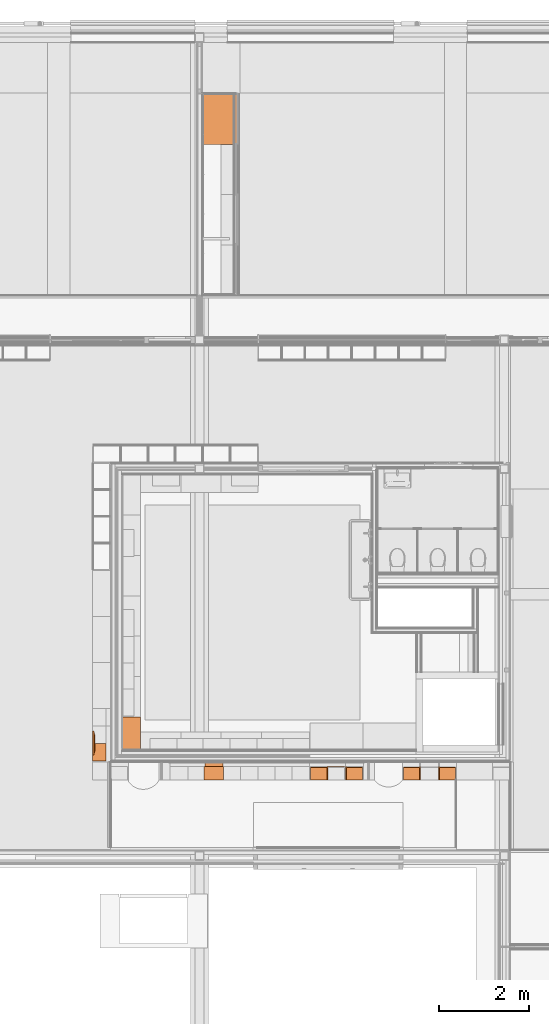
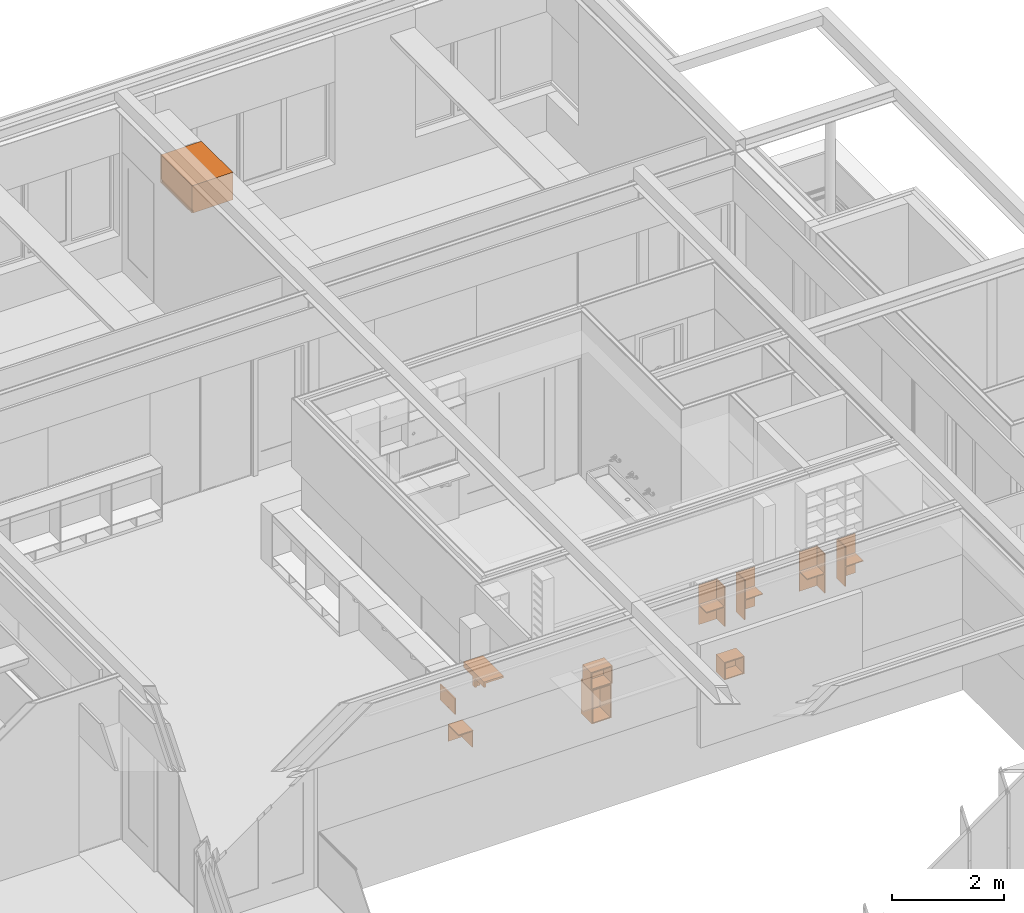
# One storey, part 136 of 137: 11 proxies.
"""IFC2X3 building model written with IfcOpenShell, lengths in millimetres."""

import ifcopenshell
import ifcopenshell.guid

model = None  # the IFC model being written
_history = None  # IfcOwnerHistory: only IFC2X3 demands one
_inside = {}  # id of a spatial element -> (the spatial element, [elements in it])
_under = {}  # id of a project, library or spatial element -> (it, [spatial elements below it])
_declared = {}  # id of a project -> (the project, [libraries it declares])
_typed = {}  # id of a type object -> (the type object, [elements of that type])
_made_of = {}  # id of a material, layer set ... -> (it, [elements and type objects made of it])


def new_model(schema):
    """Start an empty IFC model of exactly this schema.

    Asked for "IFC4X3", IfcOpenShell would pick the latest addendum, in which some entities
    have other attributes; the version numbers below select the first issue.
    IFC2X3 requires an IfcOwnerHistory on every rooted entity: one is made here for all.
    """
    global model, _history
    if schema == "IFC4X3":
        model = ifcopenshell.file(schema_version=(4, 3, 0, 0))
    else:
        model = ifcopenshell.file(schema=schema)
    _inside.clear()
    _under.clear()
    _declared.clear()
    _typed.clear()
    _made_of.clear()
    _history = None
    if model.schema == "IFC2X3":
        org = make("IfcOrganization", Name="unknown")
        user = make(
            "IfcPersonAndOrganization",
            ThePerson=make("IfcPerson", FamilyName="unknown"),
            TheOrganization=org,
        )
        app = make(
            "IfcApplication",
            ApplicationDeveloper=org,
            Version="unknown",
            ApplicationFullName="unknown",
            ApplicationIdentifier="unknown",
        )
        _history = make(
            "IfcOwnerHistory",
            OwningUser=user,
            OwningApplication=app,
            ChangeAction="ADDED",
            CreationDate=0,
        )
    return model


def make(cls, **values):
    """One entity of the class cls with the attributes given. An attribute that is None is left unset."""
    return model.create_entity(
        cls, **{name: value for name, value in values.items() if value is not None}
    )


def entity(cls, *values):
    """Any entity or typed value of the class cls, its attributes in the order of the schema. None: left unset."""
    e = model.create_entity(cls)
    for i, value in enumerate(values):
        if value is not None:
            e[i] = value
    return e


def rooted(cls, **values):
    """An entity with a GlobalId (a new one), such as an element, a storey or a relation."""
    return make(cls, GlobalId=ifcopenshell.guid.new(), OwnerHistory=_history, **values)


def si_unit(unit_type, name, prefix=None):
    """IfcSIUnit, for example si_unit("LENGTHUNIT", "METRE", prefix="MILLI")."""
    return make("IfcSIUnit", UnitType=unit_type, Prefix=prefix, Name=name)


def converted_unit(unit_type, name, factor, base, dimensions=None, offset=None):
    """IfcConversionBasedUnit, such as the inch: factor (a typed value) times the base unit."""
    return make(
        "IfcConversionBasedUnit"
        if offset is None
        else "IfcConversionBasedUnitWithOffset",
        ConversionOffset=offset,
        Dimensions=None
        if dimensions is None
        else entity("IfcDimensionalExponents", *dimensions),
        UnitType=unit_type,
        Name=name,
        ConversionFactor=make(
            "IfcMeasureWithUnit", ValueComponent=factor, UnitComponent=base
        ),
    )


def derived_unit(unit_type, elements):
    """IfcDerivedUnit: a product of units, each with its exponent."""
    return make(
        "IfcDerivedUnit",
        Elements=[
            make("IfcDerivedUnitElement", Unit=unit, Exponent=power)
            for unit, power in elements
        ],
        UnitType=unit_type,
    )


def money_unit(currency):
    """IfcMonetaryUnit."""
    return make("IfcMonetaryUnit", Currency=currency)


def assignment(units):
    """IfcUnitAssignment: the units of a project."""
    return None if units is None else make("IfcUnitAssignment", Units=units)


def point(xyz):
    """IfcCartesianPoint."""
    return None if xyz is None else make("IfcCartesianPoint", Coordinates=xyz)


def direction(xyz):
    """IfcDirection."""
    return None if xyz is None else make("IfcDirection", DirectionRatios=xyz)


def frame(location, z_axis=None, x_axis=None):
    """IfcAxis2Placement3D, a coordinate frame: its origin and axes. An axis left out is left unset."""
    return make(
        "IfcAxis2Placement3D",
        Location=point(location),
        Axis=direction(z_axis),
        RefDirection=direction(x_axis),
    )


def origin_with_axes():
    """The frame at (0, 0, 0) with the z axis (0, 0, 1) and the x axis (1, 0, 0) written out."""
    return frame((0.0, 0.0, 0.0), z_axis=(0.0, 0.0, 1.0), x_axis=(1.0, 0.0, 0.0))


def place(relative_to, where):
    """IfcLocalPlacement: puts the frame where relative to a parent placement (None: the world)."""
    return make(
        "IfcLocalPlacement", PlacementRelTo=relative_to, RelativePlacement=where
    )


def context(
    kind, dimensions, precision=None, world=None, true_north=None, identifier=None
):
    """IfcGeometricRepresentationContext, for example the 3D "Model" context."""
    return make(
        "IfcGeometricRepresentationContext",
        ContextIdentifier=identifier,
        ContextType=kind,
        CoordinateSpaceDimension=dimensions,
        Precision=precision,
        WorldCoordinateSystem=world,
        TrueNorth=true_north,
    )


def subcontext(parent, identifier, kind, view, scale=None):
    """IfcGeometricRepresentationSubContext, for example "Body" below "Model"."""
    return make(
        "IfcGeometricRepresentationSubContext",
        ContextIdentifier=identifier,
        ContextType=kind,
        ParentContext=parent,
        TargetScale=scale,
        TargetView=view,
    )


def project(units=None, contexts=None):
    """IfcProject with its units and contexts."""
    return rooted(
        "IfcProject",
        Name="project",
        RepresentationContexts=contexts,
        UnitsInContext=assignment(units),
    )


def spatial(cls, under=None, at=None, **own):
    """A site, building, storey or space (cls), placed at a placement, below another one or the project."""
    s = rooted(cls, ObjectPlacement=at, **own)
    if under is not None:
        _under.setdefault(under.id(), (under, []))[1].append(s)
    return s


def faces_of(points, faces, orient=None, outer=None):
    """IfcFace entities. A face is a list of loops; a loop is a list of indices into points, from 0.

    orient and outer hold one flag for each loop. By default every Orientation is true, the
    first loop of a face is its IfcFaceOuterBound and the others are IfcFaceBound.
    """
    made = []
    for i, loops in enumerate(faces):
        bounds = []
        for j, loop in enumerate(loops):
            is_outer = j == 0 if outer is None else outer[i][j]
            bounds.append(
                make(
                    "IfcFaceOuterBound" if is_outer else "IfcFaceBound",
                    Bound=make("IfcPolyLoop", Polygon=[points[k] for k in loop]),
                    Orientation=True if orient is None else orient[i][j],
                )
            )
        made.append(make("IfcFace", Bounds=bounds))
    return made


def faceted_brep(points, faces, orient=None, outer=None, voids=None):
    """IfcFacetedBrep: a solid bounded by flat faces; with voids (closed shells), ...WithVoids."""
    shared = [point(p) for p in points]
    hull = make("IfcClosedShell", CfsFaces=faces_of(shared, faces, orient, outer))
    if voids is None:
        return make("IfcFacetedBrep", Outer=hull)
    return make(
        "IfcFacetedBrepWithVoids",
        Outer=hull,
        Voids=[
            make(cls, CfsFaces=faces_of(shared, fs, o, b)) for cls, fs, o, b in voids
        ],
    )


def shape(context_of_items, identifier, shape_type, items):
    """IfcShapeRepresentation: the items that make up one representation, for example the "Body"."""
    return make(
        "IfcShapeRepresentation",
        ContextOfItems=context_of_items,
        RepresentationIdentifier=identifier,
        RepresentationType=shape_type,
        Items=items,
    )


def made_of(thing, what):
    """Note that an element or type object is made of a material, layer set ...; save() writes the relation."""
    if what is not None:
        _made_of.setdefault(what.id(), (what, []))[1].append(thing)
    return thing


def type_object(cls, material=None, **own):
    """A type object (cls), such as IfcWallType, which elements share."""
    return made_of(rooted(cls, **own), material)


def element(
    cls,
    number,
    at=None,
    inside=None,
    cuts=None,
    type_object=None,
    material=None,
    context=None,
    identifier="Body",
    shape_type=None,
    held_by="IfcProductDefinitionShape",
    body=None,
    shapes=None,
    **own,
):
    """One element of the class cls, such as IfcWall. Its Tag is "e" and its number.

    at: its placement. inside: the storey or other place that contains it. cuts: it is an
    opening in that element (IfcRelVoidsElement). A single representation is given by context,
    identifier, shape_type and body (its items); several are given by shapes. held_by: the class
    of the entity that holds the representations. save() writes the other relations.
    """
    e = rooted(cls, Tag="e%d" % number, ObjectPlacement=at, **own)
    if body is not None:
        shapes = [shape(context, identifier, shape_type, body)]
    if shapes is not None:
        e.Representation = make(held_by, Representations=shapes)
    if inside is not None:
        _inside.setdefault(inside.id(), (inside, []))[1].append(e)
    if cuts is not None:
        rooted(
            "IfcRelVoidsElement", RelatingBuildingElement=cuts, RelatedOpeningElement=e
        )
    if type_object is not None:
        _typed.setdefault(type_object.id(), (type_object, []))[1].append(e)
    return made_of(e, material)


def aggregate(whole, parts):
    """IfcRelAggregates: a whole, such as a stair, and the parts it consists of."""
    return rooted("IfcRelAggregates", RelatingObject=whole, RelatedObjects=parts)


def save(model, path):
    """Write the relations noted so far, then the file.

    IfcRelAggregates (storeys below a building ...), IfcRelContainedInSpatialStructure (elements
    in a storey), IfcRelDefinesByType, IfcRelAssociatesMaterial and IfcRelDeclares: one each for
    every whole, place, type object, material and project.
    """
    for whole, parts in _under.values():
        aggregate(whole, parts)
    for where, things in _inside.values():
        rooted(
            "IfcRelContainedInSpatialStructure",
            RelatedElements=things,
            RelatingStructure=where,
        )
    for kind, things in _typed.values():
        rooted("IfcRelDefinesByType", RelatedObjects=things, RelatingType=kind)
    for what, things in _made_of.values():
        rooted("IfcRelAssociatesMaterial", RelatedObjects=things, RelatingMaterial=what)
    for by, libraries in _declared.values():
        rooted("IfcRelDeclares", RelatingContext=by, RelatedDefinitions=libraries)
    model.write(path)


model = new_model("IFC2X3")

# Units and contexts
model_context = context("Model", 3, precision=0.01, world=origin_with_axes(), true_north=direction((0.0, 1.0)))
body_context = subcontext(model_context, "Body", "Model", "MODEL_VIEW")
ifc_project = project(units=[si_unit("LENGTHUNIT", "METRE", prefix="MILLI"), si_unit("AREAUNIT", "SQUARE_METRE"), si_unit("VOLUMEUNIT", "CUBIC_METRE"), converted_unit("PLANEANGLEUNIT", "DEGREE", entity("IfcPlaneAngleMeasure", 0.0174532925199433), si_unit("PLANEANGLEUNIT", "RADIAN"), dimensions=[0, 0, 0, 0, 0, 0, 0]), money_unit("EUR"), converted_unit("TIMEUNIT", "Year", entity("IfcTimeMeasure", 31556926.0), si_unit("TIMEUNIT", "SECOND"), dimensions=[0, 0, 1, 0, 0, 0, 0]), si_unit("MASSUNIT", "GRAM", prefix="KILO"), si_unit("THERMODYNAMICTEMPERATUREUNIT", "DEGREE_CELSIUS"), si_unit("LUMINOUSINTENSITYUNIT", "LUMEN"), si_unit("ENERGYUNIT", "JOULE", prefix="MEGA"), derived_unit("THERMALCONDUCTANCEUNIT", [(si_unit("POWERUNIT", "WATT"), 1), (si_unit("LENGTHUNIT", "METRE"), -1), (si_unit("THERMODYNAMICTEMPERATUREUNIT", "KELVIN"), -1)]), derived_unit("SPECIFICHEATCAPACITYUNIT", [(si_unit("ENERGYUNIT", "JOULE"), 1), (si_unit("MASSUNIT", "GRAM", prefix="KILO"), -1), (si_unit("THERMODYNAMICTEMPERATUREUNIT", "KELVIN"), -1)]), derived_unit("MASSDENSITYUNIT", [(si_unit("MASSUNIT", "GRAM", prefix="KILO"), 1), (si_unit("VOLUMEUNIT", "CUBIC_METRE"), -1)])], contexts=[model_context])

# Site, building, storey
site_placement = place(None, origin_with_axes())
site = spatial("IfcSite", under=ifc_project, at=site_placement, Name="Site", CompositionType="ELEMENT")
building_placement = place(site_placement, origin_with_axes())
building = spatial("IfcBuilding", under=site, at=building_placement, Name="Naam gebouw", CompositionType="ELEMENT")
storey_placement = place(building_placement, frame((0.0, 0.0, 3960.0), z_axis=(0.0, 0.0, 1.0), x_axis=(1.0, 0.0, 0.0)))
storey = spatial("IfcBuildingStorey", under=building, at=storey_placement, Name="1e verdieping", CompositionType="ELEMENT", Elevation=3960.0)

# Proxies
building_element_proxy_type_1 = type_object("IfcBuildingElementProxyType", Name="Onderkast recht 26", PredefinedType="NOTDEFINED")
proxy_1_placement = place(storey_placement, frame((23434.99903999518, 12804.99778166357, 1199.999999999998), z_axis=(0.0, 0.0, 1.0), x_axis=(1.0, 0.0, 0.0)))
element("IfcBuildingElementProxy", 1, at=proxy_1_placement, inside=storey, type_object=building_element_proxy_type_1, Name="_Leeg", context=body_context, shape_type="Brep", body=[
    faceted_brep([(-379.999999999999, -300.0000000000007, 441.0000000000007), (-19.99999999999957, -300.0000000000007, 441.0000000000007), (-19.99999999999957, -300.0000000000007, 459.0000000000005), (-379.999999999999, -300.0000000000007, 459.0000000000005), (-19.99999999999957, -19.99999999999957, 441.0000000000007), (-379.999999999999, -19.99999999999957, 441.0000000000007), (-19.99999999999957, -19.99999999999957, 459.0000000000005), (-379.999999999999, -19.99999999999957, 459.0000000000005)], [[[0, 1, 2, 3]], [[4, 1, 0, 5]], [[1, 4, 6, 2]], [[3, 2, 6, 7]], [[5, 0, 3, 7]], [[4, 5, 7, 6]]]),
    faceted_brep([(-19.99999999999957, -9.999999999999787, 19.99999999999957), (-379.999999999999, -9.999999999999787, 19.99999999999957), (-379.999999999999, -9.999999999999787, 880.0000000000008), (-19.99999999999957, -9.999999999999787, 880.0000000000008), (-379.999999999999, -19.99999999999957, 19.99999999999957), (-19.99999999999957, -19.99999999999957, 19.99999999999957), (-379.999999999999, -19.99999999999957, 880.0000000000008), (-19.99999999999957, -19.99999999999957, 880.0000000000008)], [[[0, 1, 2, 3]], [[4, 1, 0, 5]], [[1, 4, 6, 2]], [[3, 2, 6, 7]], [[5, 0, 3, 7]], [[4, 5, 7, 6]]]),
    faceted_brep([(-399.9999999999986, 0.0, 880.0000000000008), (-379.999999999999, 0.0, 880.0000000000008), (-379.999999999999, 0.0, 19.99999999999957), (-399.9999999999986, 0.0, 19.99999999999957), (-379.999999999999, -300.0000000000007, 880.0000000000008), (-399.9999999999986, -300.0000000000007, 880.0000000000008), (-379.999999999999, -300.0000000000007, 19.99999999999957), (-399.9999999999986, -300.0000000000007, 19.99999999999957)], [[[0, 1, 2, 3]], [[4, 1, 0, 5]], [[1, 4, 6, 2]], [[3, 2, 6, 7]], [[5, 0, 3, 7]], [[4, 5, 7, 6]]]),
])
proxy_2_placement = place(storey_placement, frame((22634.99903999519, 12804.99778166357, 1199.999999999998), z_axis=(0.0, 0.0, 1.0), x_axis=(1.0, 0.0, 0.0)))
element("IfcBuildingElementProxy", 2, at=proxy_2_placement, inside=storey, type_object=building_element_proxy_type_1, Name="_Leeg", context=body_context, shape_type="Brep", body=[
    faceted_brep([(-379.999999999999, -300.0000000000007, 441.0000000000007), (-19.99999999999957, -300.0000000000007, 441.0000000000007), (-19.99999999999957, -300.0000000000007, 459.0000000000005), (-379.999999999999, -300.0000000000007, 459.0000000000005), (-19.99999999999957, -19.99999999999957, 441.0000000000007), (-379.999999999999, -19.99999999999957, 441.0000000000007), (-19.99999999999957, -19.99999999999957, 459.0000000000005), (-379.999999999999, -19.99999999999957, 459.0000000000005)], [[[0, 1, 2, 3]], [[4, 1, 0, 5]], [[1, 4, 6, 2]], [[3, 2, 6, 7]], [[5, 0, 3, 7]], [[4, 5, 7, 6]]]),
    faceted_brep([(-19.99999999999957, -9.999999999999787, 19.99999999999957), (-379.999999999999, -9.999999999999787, 19.99999999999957), (-379.999999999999, -9.999999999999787, 880.0000000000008), (-19.99999999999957, -9.999999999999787, 880.0000000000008), (-379.999999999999, -19.99999999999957, 19.99999999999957), (-19.99999999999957, -19.99999999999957, 19.99999999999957), (-379.999999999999, -19.99999999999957, 880.0000000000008), (-19.99999999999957, -19.99999999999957, 880.0000000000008)], [[[0, 1, 2, 3]], [[4, 1, 0, 5]], [[1, 4, 6, 2]], [[3, 2, 6, 7]], [[5, 0, 3, 7]], [[4, 5, 7, 6]]]),
    faceted_brep([(-19.99999999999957, 0.0, 880.0000000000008), (0.0, 0.0, 880.0000000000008), (0.0, 0.0, 19.99999999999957), (-19.99999999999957, 0.0, 19.99999999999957), (0.0, -300.0000000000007, 880.0000000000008), (-19.99999999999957, -300.0000000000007, 880.0000000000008), (0.0, -300.0000000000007, 19.99999999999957), (-19.99999999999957, -300.0000000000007, 19.99999999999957)], [[[0, 1, 2, 3]], [[4, 1, 0, 5]], [[1, 4, 6, 2]], [[3, 2, 6, 7]], [[5, 0, 3, 7]], [[4, 5, 7, 6]]]),
])
proxy_3_placement = place(storey_placement, frame((20570.00661817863, 12804.99778166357, 1199.999999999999), z_axis=(0.0, 0.0, 1.0), x_axis=(1.0, 0.0, 0.0)))
element("IfcBuildingElementProxy", 3, at=proxy_3_placement, inside=storey, type_object=building_element_proxy_type_1, Name="_Leeg", context=body_context, shape_type="Brep", body=[
    faceted_brep([(-390.0000000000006, -300.0000000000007, 442.0000000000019), (-19.99999999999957, -300.0000000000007, 442.0000000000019), (-19.99999999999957, -300.0000000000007, 460.0000000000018), (-390.0000000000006, -300.0000000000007, 460.0000000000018), (-19.99999999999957, -19.99999999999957, 442.0000000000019), (-390.0000000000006, -19.99999999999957, 442.0000000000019), (-19.99999999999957, -19.99999999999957, 460.0000000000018), (-390.0000000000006, -19.99999999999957, 460.0000000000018)], [[[0, 1, 2, 3]], [[4, 1, 0, 5]], [[1, 4, 6, 2]], [[3, 2, 6, 7]], [[5, 0, 3, 7]], [[4, 5, 7, 6]]]),
    faceted_brep([(-19.99999999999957, -9.999999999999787, 19.99999999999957), (-390.0000000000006, -9.999999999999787, 19.99999999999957), (-390.0000000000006, -9.999999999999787, 882.0000000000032), (-19.99999999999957, -9.999999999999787, 882.0000000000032), (-390.0000000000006, -19.99999999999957, 19.99999999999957), (-19.99999999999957, -19.99999999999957, 19.99999999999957), (-390.0000000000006, -19.99999999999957, 882.0000000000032), (-19.99999999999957, -19.99999999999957, 882.0000000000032)], [[[0, 1, 2, 3]], [[4, 1, 0, 5]], [[1, 4, 6, 2]], [[3, 2, 6, 7]], [[5, 0, 3, 7]], [[4, 5, 7, 6]]]),
    faceted_brep([(-19.99999999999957, 0.0, 882.0000000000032), (0.0, 0.0, 882.0000000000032), (0.0, 0.0, 19.99999999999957), (-19.99999999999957, 0.0, 19.99999999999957), (0.0, -300.0000000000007, 882.0000000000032), (-19.99999999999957, -300.0000000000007, 882.0000000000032), (0.0, -300.0000000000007, 19.99999999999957), (-19.99999999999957, -300.0000000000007, 19.99999999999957)], [[[0, 1, 2, 3]], [[4, 1, 0, 5]], [[1, 4, 6, 2]], [[3, 2, 6, 7]], [[5, 0, 3, 7]], [[4, 5, 7, 6]]]),
])
proxy_4_placement = place(storey_placement, frame((21360.00661817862, 12804.99778166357, 1199.999999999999), z_axis=(0.0, 0.0, 1.0), x_axis=(1.0, 0.0, 0.0)))
element("IfcBuildingElementProxy", 4, at=proxy_4_placement, inside=storey, type_object=building_element_proxy_type_1, Name="_Leeg", context=body_context, shape_type="Brep", body=[
    faceted_brep([(-379.999999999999, -300.0000000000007, 442.0000000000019), (-19.99999999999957, -300.0000000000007, 442.0000000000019), (-19.99999999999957, -300.0000000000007, 460.0000000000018), (-379.999999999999, -300.0000000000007, 460.0000000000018), (-19.99999999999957, -19.99999999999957, 442.0000000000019), (-379.999999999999, -19.99999999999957, 442.0000000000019), (-19.99999999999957, -19.99999999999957, 460.0000000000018), (-379.999999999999, -19.99999999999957, 460.0000000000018)], [[[0, 1, 2, 3]], [[4, 1, 0, 5]], [[1, 4, 6, 2]], [[3, 2, 6, 7]], [[5, 0, 3, 7]], [[4, 5, 7, 6]]]),
    faceted_brep([(-19.99999999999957, -9.999999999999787, 19.99999999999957), (-379.999999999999, -9.999999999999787, 19.99999999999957), (-379.999999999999, -9.999999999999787, 882.0000000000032), (-19.99999999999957, -9.999999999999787, 882.0000000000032), (-379.999999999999, -19.99999999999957, 19.99999999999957), (-19.99999999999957, -19.99999999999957, 19.99999999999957), (-379.999999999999, -19.99999999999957, 882.0000000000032), (-19.99999999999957, -19.99999999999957, 882.0000000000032)], [[[0, 1, 2, 3]], [[4, 1, 0, 5]], [[1, 4, 6, 2]], [[3, 2, 6, 7]], [[5, 0, 3, 7]], [[4, 5, 7, 6]]]),
    faceted_brep([(-399.9999999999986, 0.0, 882.0000000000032), (-379.999999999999, 0.0, 882.0000000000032), (-379.999999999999, 0.0, 19.99999999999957), (-399.9999999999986, 0.0, 19.99999999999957), (-379.999999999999, -300.0000000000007, 882.0000000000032), (-399.9999999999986, -300.0000000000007, 882.0000000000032), (-379.999999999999, -300.0000000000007, 19.99999999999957), (-399.9999999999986, -300.0000000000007, 19.99999999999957)], [[[0, 1, 2, 3]], [[4, 1, 0, 5]], [[1, 4, 6, 2]], [[3, 2, 6, 7]], [[5, 0, 3, 7]], [[4, 5, 7, 6]]]),
])
proxy_5_placement = place(storey_placement, frame((15614.99945671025, 12904.9998112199, 49.99999999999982), z_axis=(0.0, 0.0, 1.0), x_axis=(0.0, -1.0, 0.0)))
element("IfcBuildingElementProxy", 5, at=proxy_5_placement, inside=storey, type_object=building_element_proxy_type_1, Name="_Leeg", context=body_context, shape_type="Brep", body=[
    faceted_brep([(-19.99999999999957, -9.999999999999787, 19.99999999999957), (-390.0000000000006, -9.999999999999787, 19.99999999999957), (-390.0000000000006, -9.999999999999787, 364.6666666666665), (-19.99999999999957, -9.999999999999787, 364.6666666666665), (-390.0000000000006, -19.99999999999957, 19.99999999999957), (-19.99999999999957, -19.99999999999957, 19.99999999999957), (-390.0000000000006, -19.99999999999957, 364.6666666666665), (-19.99999999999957, -19.99999999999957, 364.6666666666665)], [[[0, 1, 2, 3]], [[4, 1, 0, 5]], [[1, 4, 6, 2]], [[3, 2, 6, 7]], [[5, 0, 3, 7]], [[4, 5, 7, 6]]]),
    faceted_brep([(-390.0000000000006, -300.0000000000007, 364.6666666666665), (-19.99999999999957, -300.0000000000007, 364.6666666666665), (-19.99999999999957, -300.0000000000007, 384.6666666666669), (-390.0000000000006, -300.0000000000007, 384.6666666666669), (-19.99999999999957, 0.0, 364.6666666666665), (-390.0000000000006, 0.0, 364.6666666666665), (-19.99999999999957, 0.0, 384.6666666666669), (-390.0000000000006, 0.0, 384.6666666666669)], [[[0, 1, 2, 3]], [[4, 1, 0, 5]], [[1, 4, 6, 2]], [[3, 2, 6, 7]], [[5, 0, 3, 7]], [[4, 5, 7, 6]]]),
    faceted_brep([(-390.0000000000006, 0.0, 20.00000000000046), (-410.0000000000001, 0.0, 20.00000000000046), (-410.0000000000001, 0.0, 384.6666666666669), (-390.0000000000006, 0.0, 384.6666666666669), (-410.0000000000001, -299.9999999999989, 20.00000000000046), (-390.0000000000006, -299.9999999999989, 20.00000000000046), (-410.0000000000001, -300.0000000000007, 384.6666666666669), (-390.0000000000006, -300.0000000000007, 384.6666666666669)], [[[0, 1, 2, 3]], [[4, 1, 0, 5]], [[1, 4, 6, 2]], [[2, 6, 7, 3]], [[5, 0, 3, 7]], [[4, 5, 7, 6]]]),
])
proxy_6_placement = place(storey_placement, frame((18220.00661817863, 12904.99778166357, 49.99999999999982), z_axis=(0.0, 0.0, 1.0), x_axis=(1.0, 0.0, 0.0)))
element("IfcBuildingElementProxy", 6, at=proxy_6_placement, inside=storey, type_object=building_element_proxy_type_1, Name="_Leeg", context=body_context, shape_type="Brep", body=[
    faceted_brep([(-20.0, -400.0, 0.0), (-20.0, -400.0, 20.0), (-379.9999999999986, -400.0, 20.0), (-379.9999999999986, -400.0, 0.0), (-20.0, 0.0, 0.0), (-20.0, 0.0, 20.0), (-379.9999999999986, 0.0, 20.0), (-379.9999999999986, 0.0, 0.0)], [[[0, 1, 2, 3]], [[4, 5, 1, 0]], [[1, 5, 6, 2]], [[3, 2, 6, 7]], [[0, 3, 7, 4]], [[7, 6, 5, 4]]]),
    faceted_brep([(-20.0, -400.0, 723.3333333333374), (-20.0, -400.0, 743.3333333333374), (-379.9999999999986, -400.0, 743.3333333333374), (-379.9999999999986, -400.0, 723.3333333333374), (-20.0, 0.0, 723.3333333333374), (-20.0, 0.0, 743.3333333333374), (-379.9999999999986, 0.0, 743.3333333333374), (-379.9999999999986, 0.0, 723.3333333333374)], [[[0, 1, 2, 3]], [[4, 5, 1, 0]], [[1, 5, 6, 2]], [[3, 2, 6, 7]], [[0, 3, 7, 4]], [[7, 6, 5, 4]]]),
    faceted_brep([(0.0, 0.0, 0.0), (0.0, 0.0, 743.3333333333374), (0.0, -400.0, 743.3333333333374), (0.0, -400.0, 0.0), (-20.0, 0.0, 0.0), (-20.0, 0.0, 743.3333333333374), (-20.0, -400.0, 743.3333333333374), (-20.0, -400.0, 0.0)], [[[0, 1, 2, 3]], [[4, 5, 1, 0]], [[1, 5, 6, 2]], [[3, 2, 6, 7]], [[0, 3, 7, 4]], [[7, 6, 5, 4]]]),
    faceted_brep([(-399.9999999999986, -400.0, 0.0), (-399.9999999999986, -400.0, 743.3333333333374), (-399.9999999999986, 0.0, 743.3333333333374), (-399.9999999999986, 0.0, 0.0), (-379.9999999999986, -400.0, 0.0), (-379.9999999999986, -400.0, 743.3333333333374), (-379.9999999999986, 0.0, 743.3333333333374), (-379.9999999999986, 0.0, 0.0)], [[[0, 1, 2, 3]], [[4, 5, 1, 0]], [[1, 5, 6, 2]], [[3, 2, 6, 7]], [[0, 3, 7, 4]], [[7, 6, 5, 4]]]),
    faceted_brep([(-379.9999999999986, -10.0, 20.0), (-379.9999999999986, -10.0, 723.3333333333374), (-20.00000000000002, -10.0, 723.3333333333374), (-20.00000000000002, -10.0, 20.0), (-379.9999999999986, -20.0, 20.0), (-379.9999999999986, -20.0, 723.3333333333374), (-20.00000000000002, -20.0, 723.3333333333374), (-20.00000000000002, -20.0, 20.0)], [[[0, 1, 2, 3]], [[4, 5, 1, 0]], [[1, 5, 6, 2]], [[3, 2, 6, 7]], [[0, 3, 7, 4]], [[7, 6, 5, 4]]]),
])
proxy_7_placement = place(storey_placement, frame((18240.00661817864, 12804.99778166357, 793.3333333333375), z_axis=(0.0, 0.0, 1.0), x_axis=(1.0, 0.0, 0.0)))
element("IfcBuildingElementProxy", 7, at=proxy_7_placement, inside=storey, type_object=building_element_proxy_type_1, Name="_Leeg", context=body_context, shape_type="Brep", body=[
    faceted_brep([(-20.0, -300.0000000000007, 0.0), (-20.0, -300.0000000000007, 20.0), (-420.0000000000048, -300.0000000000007, 20.0), (-420.0000000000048, -300.0000000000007, 0.0), (-20.0, 0.0, 0.0), (-20.0, 0.0, 20.0), (-420.0000000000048, 0.0, 20.0), (-420.0000000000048, 0.0, 0.0)], [[[0, 1, 2, 3]], [[4, 5, 1, 0]], [[1, 5, 6, 2]], [[3, 2, 6, 7]], [[0, 3, 7, 4]], [[7, 6, 5, 4]]]),
    faceted_brep([(-20.0, -300.0000000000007, 363.6666666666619), (-20.0, -300.0000000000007, 383.6666666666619), (-420.0000000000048, -300.0000000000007, 383.6666666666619), (-420.0000000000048, -300.0000000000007, 363.6666666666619), (-20.0, 0.0, 363.6666666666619), (-20.0, 0.0, 383.6666666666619), (-420.0000000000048, 0.0, 383.6666666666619), (-420.0000000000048, 0.0, 363.6666666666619)], [[[0, 1, 2, 3]], [[4, 5, 1, 0]], [[1, 5, 6, 2]], [[3, 2, 6, 7]], [[0, 3, 7, 4]], [[7, 6, 5, 4]]]),
    faceted_brep([(0.0, 0.0, 0.0), (0.0, 0.0, 383.6666666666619), (0.0, -300.0000000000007, 383.6666666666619), (0.0, -300.0000000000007, 0.0), (-20.0, 0.0, 0.0), (-20.0, 0.0, 383.6666666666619), (-20.0, -300.0000000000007, 383.6666666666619), (-20.0, -300.0000000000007, 0.0)], [[[0, 1, 2, 3]], [[4, 5, 1, 0]], [[1, 5, 6, 2]], [[3, 2, 6, 7]], [[0, 3, 7, 4]], [[7, 6, 5, 4]]]),
    faceted_brep([(-440.0000000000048, -300.0000000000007, 0.0), (-440.0000000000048, -300.0000000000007, 383.6666666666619), (-440.0000000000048, 0.0, 383.6666666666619), (-440.0000000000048, 0.0, 0.0), (-420.0000000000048, -300.0000000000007, 0.0), (-420.0000000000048, -300.0000000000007, 383.6666666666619), (-420.0000000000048, 0.0, 383.6666666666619), (-420.0000000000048, 0.0, 0.0)], [[[0, 1, 2, 3]], [[4, 5, 1, 0]], [[1, 5, 6, 2]], [[3, 2, 6, 7]], [[0, 3, 7, 4]], [[7, 6, 5, 4]]]),
    faceted_brep([(-420.0000000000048, -10.0, 20.0), (-420.0000000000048, -10.0, 363.666666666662), (-20.00000000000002, -10.0, 363.666666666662), (-20.00000000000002, -10.0, 20.0), (-420.0000000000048, -20.0, 20.0), (-420.0000000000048, -20.0, 363.666666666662), (-20.00000000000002, -20.0, 363.666666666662), (-20.00000000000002, -20.0, 20.0)], [[[0, 1, 2, 3]], [[4, 5, 1, 0]], [[1, 5, 6, 2]], [[3, 2, 6, 7]], [[0, 3, 7, 4]], [[7, 6, 5, 4]]]),
])
proxy_8_placement = place(storey_placement, frame((20960.00661817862, 12804.99778166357, 49.99999999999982), z_axis=(0.0, 0.0, 1.0), x_axis=(1.0, 0.0, 0.0)))
element("IfcBuildingElementProxy", 8, at=proxy_8_placement, inside=storey, type_object=building_element_proxy_type_1, Name="_Leeg", context=body_context, shape_type="Brep", body=[
    faceted_brep([(-20.0, -300.0, 0.0), (-20.0, -300.0, 20.0), (-390.0000000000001, -300.0, 20.0), (-390.0000000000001, -300.0, 0.0), (-20.0, 0.0, 0.0), (-20.0, 0.0, 20.0), (-390.0000000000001, 0.0, 20.0), (-390.0000000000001, 0.0, 0.0)], [[[0, 1, 2, 3]], [[4, 5, 1, 0]], [[1, 5, 6, 2]], [[3, 2, 6, 7]], [[0, 3, 7, 4]], [[7, 6, 5, 4]]]),
    faceted_brep([(-20.0, -300.0, 364.6666666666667), (-20.0, -300.0, 384.6666666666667), (-390.0000000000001, -300.0, 384.6666666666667), (-390.0000000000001, -300.0, 364.6666666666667), (-20.0, 0.0, 364.6666666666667), (-20.0, 0.0, 384.6666666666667), (-390.0000000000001, 0.0, 384.6666666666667), (-390.0000000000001, 0.0, 364.6666666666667)], [[[0, 1, 2, 3]], [[4, 5, 1, 0]], [[1, 5, 6, 2]], [[3, 2, 6, 7]], [[0, 3, 7, 4]], [[7, 6, 5, 4]]]),
    faceted_brep([(0.0, 0.0, 0.0), (0.0, 0.0, 384.6666666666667), (0.0, -300.0, 384.6666666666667), (0.0, -300.0, 0.0), (-20.0, 0.0, 0.0), (-20.0, 0.0, 384.6666666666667), (-20.0, -300.0, 384.6666666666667), (-20.0, -300.0, 0.0)], [[[0, 1, 2, 3]], [[4, 5, 1, 0]], [[1, 5, 6, 2]], [[3, 2, 6, 7]], [[0, 3, 7, 4]], [[7, 6, 5, 4]]]),
    faceted_brep([(-410.0000000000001, -300.0, 0.0), (-410.0000000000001, -300.0, 384.6666666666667), (-410.0000000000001, 0.0, 384.6666666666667), (-410.0000000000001, 0.0, 0.0), (-390.0000000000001, -300.0, 0.0), (-390.0000000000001, -300.0, 384.6666666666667), (-390.0000000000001, 0.0, 384.6666666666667), (-390.0000000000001, 0.0, 0.0)], [[[0, 1, 2, 3]], [[4, 5, 1, 0]], [[1, 5, 6, 2]], [[3, 2, 6, 7]], [[0, 3, 7, 4]], [[7, 6, 5, 4]]]),
    faceted_brep([(-390.0000000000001, -10.0, 20.0), (-390.0000000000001, -10.0, 364.6666666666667), (-20.00000000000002, -10.0, 364.6666666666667), (-20.00000000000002, -10.0, 20.0), (-390.0000000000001, -20.0, 20.0), (-390.0000000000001, -20.0, 364.6666666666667), (-20.00000000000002, -20.0, 364.6666666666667), (-20.00000000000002, -20.0, 20.0)], [[[0, 1, 2, 3]], [[4, 5, 1, 0]], [[1, 5, 6, 2]], [[3, 2, 6, 7]], [[0, 3, 7, 4]], [[7, 6, 5, 4]]]),
])
proxy_9_placement = place(storey_placement, frame((17762.49942456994, 27807.99984707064, 2600.0), z_axis=(0.0, 0.0, 1.0), x_axis=(0.0, 1.0, 0.0)))
element("IfcBuildingElementProxy", 9, at=proxy_9_placement, inside=storey, type_object=building_element_proxy_type_1, Name="_Leeg", context=body_context, shape_type="Brep", body=[
    faceted_brep([(-1102.000141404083, -1.999999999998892, 17.99999999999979), (-18.00000000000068, -1.999999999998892, 17.99999999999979), (-18.00000000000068, 0.0, 17.99999999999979), (-1102.000141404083, 0.0, 17.99999999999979), (-18.00000000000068, -1.999999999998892, 0.0), (-1102.000141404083, -1.999999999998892, 0.0), (-18.00000000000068, 0.0, 0.0), (-1102.000141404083, 0.0, 0.0)], [[[0, 1, 2, 3]], [[4, 1, 0, 5]], [[1, 4, 6, 2]], [[6, 7, 3, 2]], [[5, 0, 3, 7]], [[4, 5, 7, 6]]]),
    faceted_brep([(-1102.000141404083, -18.00000000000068, 69.99999999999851), (-18.00000000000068, -18.00000000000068, 69.99999999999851), (-18.00000000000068, -18.00000000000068, 581.9999999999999), (-1102.000141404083, -18.00000000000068, 581.9999999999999), (-18.00000000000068, -9.000000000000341, 69.99999999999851), (-1102.000141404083, -9.000000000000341, 69.99999999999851), (-18.00000000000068, -9.000000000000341, 581.9999999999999), (-1102.000141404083, -9.000000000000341, 581.9999999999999)], [[[0, 1, 2, 3]], [[4, 1, 0, 5]], [[1, 4, 6, 2]], [[6, 7, 3, 2]], [[5, 0, 3, 7]], [[4, 5, 7, 6]]]),
    faceted_brep([(-1102.000141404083, -826.9999999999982, 581.9999999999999), (-18.00000000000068, -826.9999999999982, 581.9999999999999), (-18.00000000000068, -826.9999999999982, 599.9999999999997), (-1102.000141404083, -826.9999999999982, 599.9999999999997), (-18.00000000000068, 0.0, 581.9999999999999), (-1102.000141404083, 0.0, 581.9999999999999), (-18.00000000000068, 0.0, 599.9999999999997), (-1102.000141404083, 0.0, 599.9999999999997)], [[[0, 1, 2, 3]], [[4, 1, 0, 5]], [[1, 4, 6, 2]], [[3, 2, 6, 7]], [[5, 0, 3, 7]], [[4, 5, 7, 6]]]),
    faceted_brep([(0.0, -1.999999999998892, 69.99999999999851), (0.0, -1.999999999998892, 0.0), (0.0, 0.0, 0.0), (0.0, 0.0, 599.9999999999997), (0.0, -826.9999999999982, 599.9999999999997), (0.0, -826.9999999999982, 0.0), (0.0, -21.99999999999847, 0.0), (0.0, -21.99999999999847, 69.99999999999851), (-18.00000000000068, -1.999999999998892, 69.99999999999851), (-18.00000000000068, -1.999999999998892, 0.0), (-18.00000000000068, 0.0, 0.0), (-18.00000000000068, 0.0, 599.9999999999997), (-18.00000000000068, -826.9999999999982, 599.9999999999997), (-18.00000000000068, -826.9999999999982, 0.0), (-18.00000000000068, -21.99999999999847, 0.0), (-18.00000000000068, -21.99999999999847, 69.99999999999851)], [[[0, 1, 2, 3, 4, 5, 6, 7]], [[1, 0, 8, 9]], [[1, 9, 10, 2]], [[2, 10, 11, 3]], [[4, 3, 11, 12]], [[13, 5, 4, 12]], [[14, 6, 5, 13]], [[7, 6, 14, 15]], [[0, 7, 15, 8]], [[15, 14, 13, 12, 11, 10, 9, 8]]]),
    faceted_brep([(-1102.000141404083, -1.999999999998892, 69.99999999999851), (-1102.000141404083, -1.999999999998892, 0.0), (-1102.000141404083, 0.0, 0.0), (-1102.000141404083, 0.0, 599.9999999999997), (-1102.000141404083, -826.9999999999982, 599.9999999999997), (-1102.000141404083, -826.9999999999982, 0.0), (-1102.000141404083, -21.99999999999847, 0.0), (-1102.000141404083, -21.99999999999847, 69.99999999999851), (-1120.000141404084, -1.999999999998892, 69.99999999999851), (-1120.000141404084, -1.999999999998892, 0.0), (-1120.000141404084, 0.0, 0.0), (-1120.000141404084, 0.0, 599.9999999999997), (-1120.000141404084, -826.9999999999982, 599.9999999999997), (-1120.000141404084, -826.9999999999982, 0.0), (-1120.000141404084, -21.99999999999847, 0.0), (-1120.000141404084, -21.99999999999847, 69.99999999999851)], [[[0, 1, 2, 3, 4, 5, 6, 7]], [[1, 0, 8, 9]], [[1, 9, 10, 2]], [[2, 10, 11, 3]], [[11, 12, 4, 3]], [[13, 5, 4, 12]], [[14, 6, 5, 13]], [[7, 6, 14, 15]], [[0, 7, 15, 8]], [[15, 14, 13, 12, 11, 10, 9, 8]]]),
    faceted_brep([(-18.00000000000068, -21.99999999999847, 0.0), (-18.00000000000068, -21.99999999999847, 17.99999999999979), (-18.00000000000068, -826.9999999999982, 17.99999999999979), (-18.00000000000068, -826.9999999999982, 0.0), (-1102.000141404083, -21.99999999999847, 17.99999999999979), (-1102.000141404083, -21.99999999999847, 0.0), (-1102.000141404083, -826.9999999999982, 17.99999999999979), (-1102.000141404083, -826.9999999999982, 0.0)], [[[0, 1, 2, 3]], [[4, 1, 0, 5]], [[1, 4, 6, 2]], [[7, 3, 2, 6]], [[5, 0, 3, 7]], [[4, 5, 7, 6]]]),
    faceted_brep([(-1.000000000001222, -826.9999999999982, 1.000000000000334), (-1.000000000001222, -844.9999999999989, 1.000000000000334), (-1119.000141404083, -844.9999999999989, 1.000000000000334), (-1119.000141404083, -826.9999999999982, 1.000000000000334), (-1.000000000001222, -826.9999999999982, 599.0000000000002), (-1.000000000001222, -844.9999999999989, 599.0000000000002), (-1119.000141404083, -844.9999999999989, 599.0000000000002), (-1119.000141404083, -826.9999999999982, 599.0000000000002)], [[[0, 1, 2, 3]], [[4, 5, 1, 0]], [[1, 5, 6, 2]], [[3, 2, 6, 7]], [[0, 3, 7, 4]], [[7, 6, 5, 4]]]),
])
building_element_proxy_type_2 = type_object("IfcBuildingElementProxyType", Name="Televisie flatscreen 26", PredefinedType="NOTDEFINED")
proxy_10_placement = place(storey_placement, frame((15314.99945671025, 13060.00727895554, 799.9999999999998), z_axis=(0.0, 0.0, 1.0), x_axis=(0.0, -1.0, 0.0)))
element("IfcBuildingElementProxy", 10, at=proxy_10_placement, inside=storey, type_object=building_element_proxy_type_2, Name="_Leeg", context=body_context, shape_type="Brep", body=[
    faceted_brep([(-520.0, 0.0, 20.0), (-520.0, 0.0, 320.0), (-520.0, 0.9999999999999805, 320.0), (-520.0, 0.9999999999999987, 20.0), (-20.0, 0.0, 20.0), (-20.0, 0.0, 320.0), (-20.0, 0.9999999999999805, 320.0), (-20.0, 0.9999999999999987, 20.0)], [[[0, 1, 2, 3]], [[0, 4, 5, 1]], [[1, 5, 6, 2]], [[3, 2, 6, 7]], [[4, 0, 3, 7]], [[5, 4, 7, 6]]]),
    faceted_brep([(-540.0, 0.0, 340.0), (-540.0, 0.0, 0.0), (0.0, 0.0, 0.0), (0.0, 0.0, 340.0), (-19.99999999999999, 0.0, 19.99999999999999), (-520.0, 0.0, 19.99999999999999), (-520.0, 0.0, 320.0), (-19.99999999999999, 0.0, 320.0), (-539.9999996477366, 25.0, -3.895163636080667e-07), (-539.9999996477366, 24.99999999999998, 340.0000003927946), (3.895163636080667e-07, 25.0, -3.895163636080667e-07), (3.895163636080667e-07, 24.99999999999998, 340.0000003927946), (-19.99999999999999, 0.9999999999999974, 19.99999999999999), (-520.0, 0.9999999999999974, 19.99999999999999), (-520.0, 0.99999999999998, 320.0), (-19.99999999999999, 0.99999999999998, 320.0), (-446.6987280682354, 50.00000037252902, 93.30127118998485), (-446.6987280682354, 50.00000037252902, 246.6987288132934), (-93.30127118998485, 50.00000037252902, 93.30127118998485), (-93.30127118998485, 50.00000037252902, 246.6987288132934)], [[[0, 1, 2, 3], [4, 5, 6, 7]], [[8, 1, 0, 9]], [[10, 2, 1, 8]], [[11, 3, 2, 10]], [[9, 0, 3, 11]], [[4, 12, 13, 5]], [[5, 13, 14, 6]], [[6, 14, 15, 7]], [[7, 15, 12, 4]], [[16, 8, 9, 17]], [[18, 10, 8, 16]], [[19, 11, 10, 18]], [[17, 9, 11, 19]], [[14, 13, 12, 15]], [[17, 19, 18, 16]]]),
    faceted_brep([(-270.0, -0.8000000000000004, 5.0), (-275.4, -0.8000000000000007, 10.0), (-275.4, 0.0, 10.0), (-270.0, 0.0, 5.0), (-264.6, -0.8000000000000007, 10.0), (-216.0, -0.800000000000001, 15.0), (-324.0, -0.800000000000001, 15.0), (-324.0, 0.0, 15.0), (-216.0, 0.0, 15.0), (-264.6, 0.0, 10.0)], [[[0, 1, 2, 3]], [[0, 4, 5, 6, 1]], [[1, 6, 7, 2]], [[3, 2, 7, 8, 9]], [[4, 0, 3, 9]], [[5, 4, 9, 8]], [[6, 5, 8, 7]]]),
    faceted_brep([(-72.00000000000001, 9.999999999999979, 340.0), (-36.00000000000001, 9.999999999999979, 340.0), (-36.00000000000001, 9.999999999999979, 341.6), (-72.00000000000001, 9.999999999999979, 341.6), (-72.00000000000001, 16.24999999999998, 340.0), (-36.00000000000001, 16.24999999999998, 340.0), (-36.00000000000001, 16.24999999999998, 341.6), (-72.00000000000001, 16.24999999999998, 341.6)], [[[0, 1, 2, 3]], [[1, 0, 4, 5]], [[2, 1, 5, 6]], [[3, 2, 6, 7]], [[0, 3, 7, 4]], [[5, 4, 7, 6]]]),
    faceted_brep([(-110.5714285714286, 9.999999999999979, 340.0), (-74.57142857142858, 9.999999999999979, 340.0), (-74.57142857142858, 9.999999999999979, 341.6), (-110.5714285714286, 9.999999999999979, 341.6), (-110.5714285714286, 16.24999999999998, 340.0), (-74.57142857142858, 16.24999999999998, 340.0), (-74.57142857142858, 16.24999999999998, 341.6), (-110.5714285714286, 16.24999999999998, 341.6)], [[[0, 1, 2, 3]], [[1, 0, 4, 5]], [[2, 1, 5, 6]], [[3, 2, 6, 7]], [[0, 3, 7, 4]], [[5, 4, 7, 6]]]),
    faceted_brep([(-131.1428571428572, 9.999999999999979, 340.0), (-113.1428571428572, 9.999999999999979, 340.0), (-113.1428571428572, 9.999999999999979, 341.6), (-131.1428571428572, 9.999999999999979, 341.6), (-131.1428571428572, 16.24999999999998, 340.0), (-113.1428571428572, 16.24999999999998, 340.0), (-113.1428571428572, 16.24999999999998, 341.6), (-131.1428571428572, 16.24999999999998, 341.6)], [[[0, 1, 2, 3]], [[1, 0, 4, 5]], [[2, 1, 5, 6]], [[3, 2, 6, 7]], [[0, 3, 7, 4]], [[5, 4, 7, 6]]]),
])
building_element_proxy_type_3 = type_object("IfcBuildingElementProxyType", Name="Klaptafel wand 26", PredefinedType="NOTDEFINED")
proxy_11_placement = place(storey_placement, frame((16385.33370646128, 13175.01957766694, 459.9999999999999), z_axis=(0.0, 0.0, 1.0), x_axis=(-5.443940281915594e-05, 0.9999999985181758, 0.0)))
element("IfcBuildingElementProxy", 11, at=proxy_11_placement, inside=storey, type_object=building_element_proxy_type_3, Name="_Leeg", context=body_context, shape_type="Brep", body=[
    faceted_brep([(390.0010169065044, 30.08792093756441, 620.0000000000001), (350.0010169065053, 30.08792093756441, 620.0000000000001), (350.0010169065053, 360.0889378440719, 620.0000000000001), (390.0010169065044, 360.0889378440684, 620.0000000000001), (390.0010169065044, 30.08792093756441, 700.0000000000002), (350.0010169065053, 30.08792093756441, 700.0000000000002), (350.0010169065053, 360.0889378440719, 700.0000000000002), (390.0010169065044, 360.0889378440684, 700.0000000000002)], [[[0, 1, 2, 3]], [[1, 0, 4, 5]], [[2, 1, 5, 6]], [[3, 2, 6, 7]], [[0, 3, 7, 4]], [[5, 4, 7, 6]]]),
    faceted_brep([(390.0010169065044, 280.0889378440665, 419.9555310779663), (350.0010169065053, 280.0889378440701, 419.9555310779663), (350.0010169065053, 360.0889378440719, 419.9555310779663), (390.0010169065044, 360.0889378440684, 419.9555310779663), (390.0010169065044, 280.0889378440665, 620.0000000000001), (350.0010169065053, 280.0889378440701, 620.0000000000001), (350.0010169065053, 360.0889378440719, 620.0000000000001), (390.0010169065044, 360.0889378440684, 620.0000000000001)], [[[0, 1, 2, 3]], [[1, 0, 4, 5]], [[2, 1, 5, 6]], [[3, 2, 6, 7]], [[0, 3, 7, 4]], [[5, 4, 7, 6]]]),
    faceted_brep([(350.0010169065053, 30.08792093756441, 620.0000000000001), (350.0010169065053, 280.0889378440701, 468.4510104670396), (390.0010169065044, 280.0889378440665, 468.4510104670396), (390.0010169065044, 30.08792093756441, 620.0000000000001), (350.0010169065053, 184.4134264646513, 620.0000000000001), (350.0010169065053, 280.0889378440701, 562.0021276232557), (390.0010169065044, 280.0889378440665, 562.0021276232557), (390.0010169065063, 184.4134264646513, 620.0000000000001)], [[[0, 1, 2, 3]], [[0, 4, 5, 1]], [[1, 5, 6, 2]], [[3, 2, 6, 7]], [[4, 0, 3, 7]], [[5, 4, 7, 6]]]),
    faceted_brep([(740.0020338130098, 0.0, 700.0000000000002), (0.0, 0.0, 700.0000000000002), (0.0, 320.0889378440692, 700.0000000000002), (740.0020338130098, 320.0889378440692, 700.0000000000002), (740.0020338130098, 0.0, 740.0000000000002), (0.0, 0.0, 740.0000000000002), (0.0, 320.0889378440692, 740.0000000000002), (740.0020338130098, 320.0889378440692, 740.0000000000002)], [[[0, 1, 2, 3]], [[1, 0, 4, 5]], [[2, 1, 5, 6]], [[3, 2, 6, 7]], [[0, 3, 7, 4]], [[5, 4, 7, 6]]]),
    faceted_brep([(740.0020338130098, 320.0889378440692, 700.0000000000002), (0.0, 320.0889378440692, 700.0000000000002), (0.0, 400.0889378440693, 700.0000000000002), (740.0020338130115, 400.0889378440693, 700.0000000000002), (740.0020338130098, 320.0889378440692, 740.0000000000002), (0.0, 320.0889378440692, 740.0000000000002), (0.0, 400.0889378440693, 740.0000000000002), (740.0020338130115, 400.0889378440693, 740.0000000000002)], [[[0, 1, 2, 3]], [[1, 0, 4, 5]], [[2, 1, 5, 6]], [[3, 2, 6, 7]], [[0, 3, 7, 4]], [[5, 4, 7, 6]]]),
    faceted_brep([(740.0020338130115, 360.0889378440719, 620.0000000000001), (0.0, 360.0889378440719, 620.0000000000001), (0.0, 400.0889378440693, 620.0000000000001), (740.0020338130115, 400.0889378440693, 620.0000000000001), (740.0020338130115, 360.0889378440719, 700.0000000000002), (0.0, 360.0889378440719, 700.0000000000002), (0.0, 400.0889378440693, 700.0000000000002), (740.0020338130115, 400.0889378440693, 700.0000000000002)], [[[0, 1, 2, 3]], [[1, 0, 4, 5]], [[2, 1, 5, 6]], [[3, 2, 6, 7]], [[0, 3, 7, 4]], [[5, 4, 7, 6]]]),
    faceted_brep([(410.0010169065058, 360.0889378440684, 419.9555310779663), (330.0010169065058, 360.0889378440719, 419.9555310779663), (330.0010169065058, 400.0889378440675, 419.9555310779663), (410.001016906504, 400.0889378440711, 419.9555310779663), (410.0010169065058, 360.0889378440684, 620.0000000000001), (330.0010169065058, 360.0889378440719, 620.0000000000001), (330.0010169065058, 400.0889378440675, 620.0000000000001), (410.001016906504, 400.0889378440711, 620.0000000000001)], [[[0, 1, 2, 3]], [[1, 0, 4, 5]], [[2, 1, 5, 6]], [[3, 2, 6, 7]], [[0, 3, 7, 4]], [[5, 4, 7, 6]]]),
])

save(model, "model.ifc")
